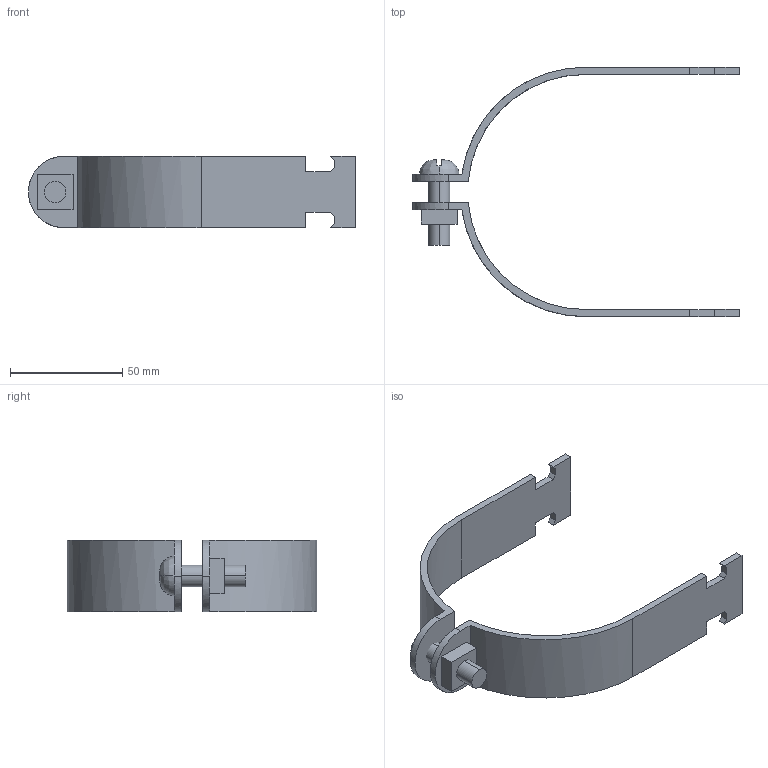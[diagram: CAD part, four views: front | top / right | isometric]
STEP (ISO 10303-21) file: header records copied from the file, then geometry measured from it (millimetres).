
FILE_DESCRIPTION(('TurboCAD Mac Pro'),'Build 980');
FILE_NAME('P2055.stp',' ',(''),(''),'ACIS Interop','IMSI','TurboCAD Mac Pro BY IMSI, INCORPORATED');
FILE_SCHEMA(('automotive_design'));
Length unit declared in the file: inch
Products named in the file (5): 1; 2; 3; 4; 5
Bounding box: 145.64 x 111.05 x 31.74 mm (x, y, z)
Volume: 37057.7 mm3; surface area: 25835 mm2
Topology: 4 solids, 4 shells, 71 faces, 186 edges, 124 vertices
Faces by surface type: plane 51, bspline 20
Entity records: 3435 total; most frequent: CARTESIAN_POINT 1034, ORIENTED_EDGE 372, DIRECTION 258, EDGE_CURVE 186, LINE 138, VECTOR 138, VERTEX_POINT 124, STYLED_ITEM 87
